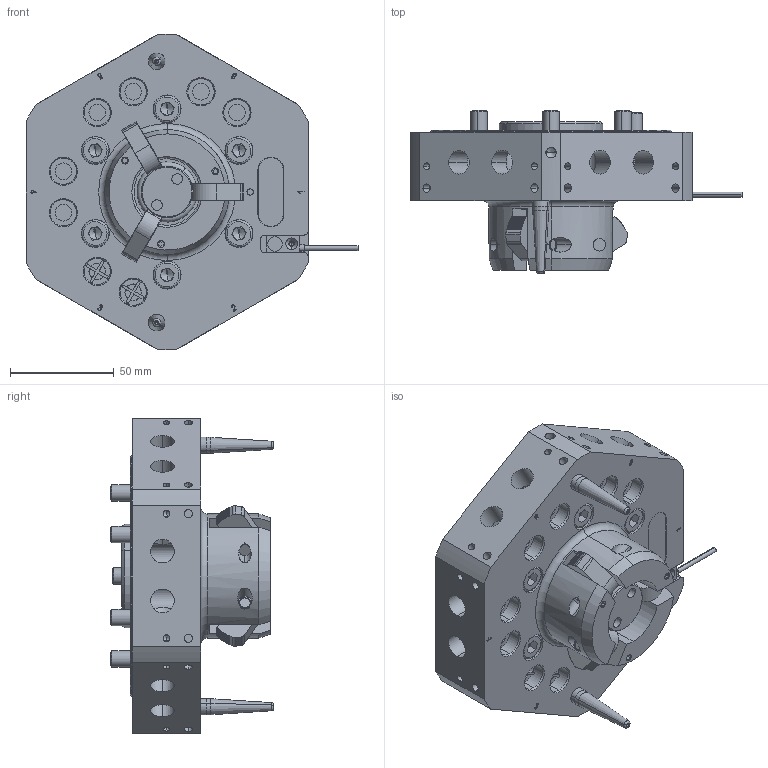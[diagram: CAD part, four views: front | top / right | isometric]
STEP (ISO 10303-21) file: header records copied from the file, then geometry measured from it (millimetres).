
FILE_DESCRIPTION (( 'STEP AP214' ), '1' );
FILE_NAME ('1800885A REV02.STEP', '2019-07-15T17:46:56', ( '' ), ( '' ), 'SwSTEP 2.0', 'SolidWorks 2019', '' );
FILE_SCHEMA (( 'AUTOMOTIVE_DESIGN' ));
Length unit declared in the file: millimetre
Products named in the file (32): 1800539P; 89504-P1063; 48427; 97501-P1084; 1506-C53N; 1507-P19N; 1600-P82A_ER80; 46650_DIN 912 M8 x 20 --- 20N; 1603-C38A; 49628_90967A120; 1502-C61N; 87525-P1007; 1600-P57N; 1506-D46N; 1607-C10N; 89503-P1052; 48012; 0601-P58N; 97500-B1028; 98508-P1024; 1601-D25A; 1506-C55N; 1506-C48N; 1310-P31N; 48425; 48030; 96510-B1092; 97501-P1047; 91502-P1060; 1506-C47N; 1800885A REV02
Assembly tree (70 placements, depth 4):
  1800885A REV02
    1601-D25A
      1506-D46N
      1506-C47N
      1506-C48N
      1506-C53N
      1502-C61N  x3
      97500-B1028  x3
      96510-B1092  x2
      48427  x5
      48425  x3
      89503-P1052  x9
      48030  x2
      1507-P19N
      48012  x6
      0601-P58N
      91502-P1060
      49628_90967A120
      87525-P1007
      1600-P82A_ER80
        46650_DIN 912 M8 x 20 --- 20N  x6
        1800539P
      1310-P31N
      1603-C38A
        1506-C55N
        97501-P1047
        89503-P1052
        98508-P1024
      1603-C38A
        1506-C55N
        97501-P1047
        89503-P1052
        98508-P1024
    1607-C10N
    89504-P1063  x4
    97501-P1084  x2
    1600-P57N
Bounding box: 160 x 78.52 x 152 mm (x, y, z)
Volume: 530395.7 mm3; surface area: 166466.6 mm2
Topology: 66 solids, 66 shells, 2063 faces, 4939 edges, 3093 vertices
Faces by surface type: plane 853, cylinder 587, cone 277, bspline 187, torus 159
Entity records: 63329 total; most frequent: CARTESIAN_POINT 27247, ORIENTED_EDGE 6984, DIRECTION 6861, EDGE_CURVE 3492, AXIS2_PLACEMENT_3D 2529, VERTEX_POINT 2245, VECTOR 1803, LINE 1803
